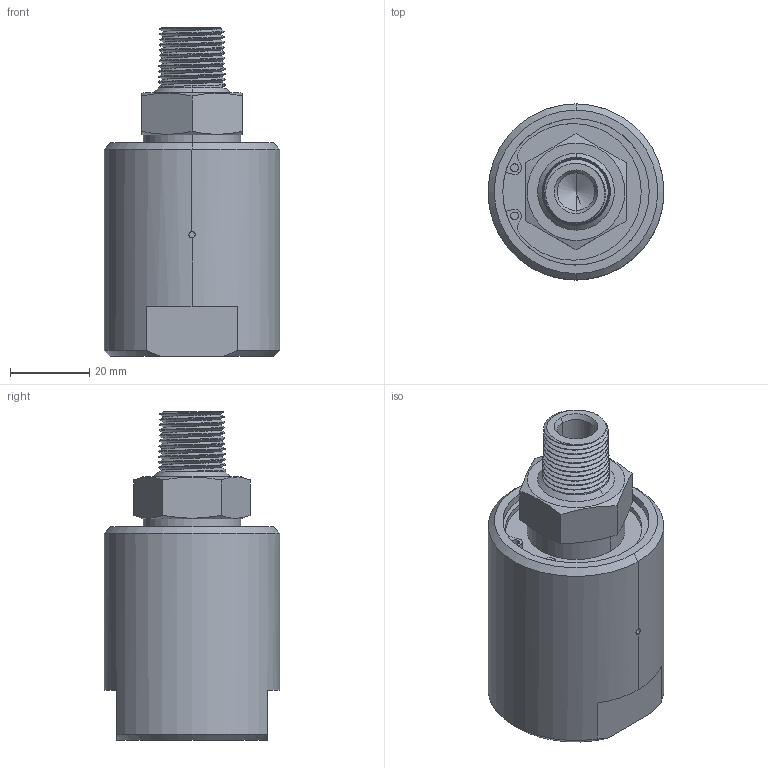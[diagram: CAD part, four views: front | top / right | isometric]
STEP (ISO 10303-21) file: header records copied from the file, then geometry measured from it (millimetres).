
FILE_DESCRIPTION (( 'STEP AP214' ), '1' );
FILE_NAME ('SPS(M)-5310.STEP', '2013-02-08T15:49:21', ( '' ), ( '' ), 'SwSTEP 2.0', 'SolidWorks 2011', '' );
FILE_SCHEMA (( 'AUTOMOTIVE_DESIGN' ));
Length unit declared in the file: inch
Products named in the file (1): SPS(M)-5310
Bounding box: 44.45 x 44.45 x 83.11 mm (x, y, z)
Volume: 83549 mm3; surface area: 15921.3 mm2
Topology: 1 solids, 1 shells, 102 faces, 266 edges, 168 vertices
Faces by surface type: cone 47, cylinder 27, plane 23, bspline 5
Entity records: 11955 total; most frequent: CARTESIAN_POINT 8670, ORIENTED_EDGE 516, DIRECTION 446, EDGE_CURVE 258, AXIS2_PLACEMENT_3D 176, VERTEX_POINT 168, EDGE_LOOP 112, FACE_OUTER_BOUND 102
